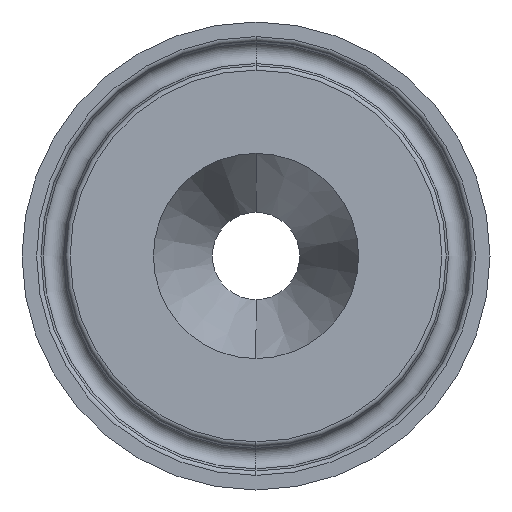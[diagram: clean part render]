
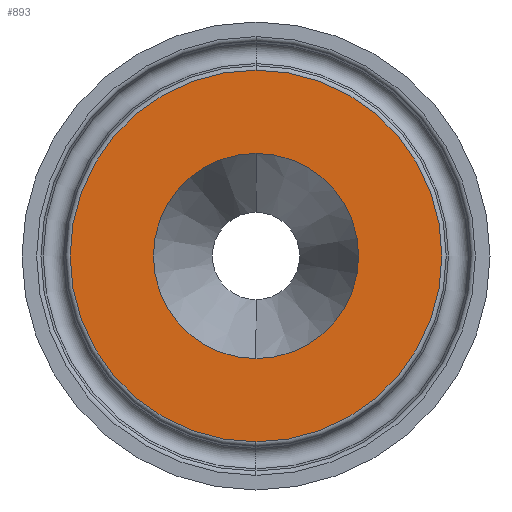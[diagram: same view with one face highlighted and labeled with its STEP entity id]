
A CAD part, left-side view. The second image highlights one B-rep face of the part: STEP entity #893.
In plain terms, the highlighted planar face has unit normal (-1, 0, 0).
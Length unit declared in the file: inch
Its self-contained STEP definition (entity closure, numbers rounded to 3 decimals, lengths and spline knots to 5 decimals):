
#36 = EDGE_CURVE ( 'NONE', #1296, #1189, #132, .T. ) ;
#69 = DIRECTION ( 'NONE',  ( 0., 0., 1. ) ) ;
#94 = DIRECTION ( 'NONE',  ( 0., 0., 1. ) ) ;
#102 = ORIENTED_EDGE ( 'NONE', *, *, #452, .T. ) ;
#110 = AXIS2_PLACEMENT_3D ( 'NONE', #946, #544, #1152 ) ;
#111 = PLANE ( 'NONE',  #654 ) ;
#132 = CIRCLE ( 'NONE', #482, 0.435 ) ;
#173 = AXIS2_PLACEMENT_3D ( 'NONE', #514, #919, #1135 ) ;
#185 = EDGE_LOOP ( 'NONE', ( #326, #102 ) ) ;
#192 = CARTESIAN_POINT ( 'NONE',  ( 0., 0.435, 0. ) ) ;
#203 = FACE_OUTER_BOUND ( 'NONE', #185, .T. ) ;
#272 = ORIENTED_EDGE ( 'NONE', *, *, #36, .F. ) ;
#279 = CARTESIAN_POINT ( 'NONE',  ( 0., 0., -0.435 ) ) ;
#326 = ORIENTED_EDGE ( 'NONE', *, *, #561, .T. ) ;
#343 = EDGE_CURVE ( 'NONE', #1189, #1296, #1183, .T. ) ;
#381 = CARTESIAN_POINT ( 'NONE',  ( 0., 0., 0. ) ) ;
#452 = EDGE_CURVE ( 'NONE', #605, #501, #989, .T. ) ;
#482 = AXIS2_PLACEMENT_3D ( 'NONE', #1018, #923, #94 ) ;
#501 = VERTEX_POINT ( 'NONE', #814 ) ;
#507 = EDGE_LOOP ( 'NONE', ( #272, #861 ) ) ;
#514 = CARTESIAN_POINT ( 'NONE',  ( 0., 0., 0. ) ) ;
#517 = DIRECTION ( 'NONE',  ( 1., 0., 0. ) ) ;
#523 = CIRCLE ( 'NONE', #110, 0.78791 ) ;
#544 = DIRECTION ( 'NONE',  ( -1., 0., 0. ) ) ;
#561 = EDGE_CURVE ( 'NONE', #501, #605, #523, .T. ) ;
#605 = VERTEX_POINT ( 'NONE', #1058 ) ;
#616 = FACE_BOUND ( 'NONE', #507, .T. ) ;
#654 = AXIS2_PLACEMENT_3D ( 'NONE', #192, #517, #1321 ) ;
#745 = CARTESIAN_POINT ( 'NONE',  ( 0., 0., 0.435 ) ) ;
#785 = DIRECTION ( 'NONE',  ( -1., 0., 0. ) ) ;
#814 = CARTESIAN_POINT ( 'NONE',  ( 0., 0., 0.78791 ) ) ;
#861 = ORIENTED_EDGE ( 'NONE', *, *, #343, .F. ) ;
#893 = ADVANCED_FACE ( 'NONE', ( #616, #203 ), #111, .F. ) ;
#915 = AXIS2_PLACEMENT_3D ( 'NONE', #381, #785, #69 ) ;
#919 = DIRECTION ( 'NONE',  ( -1., 0., 0. ) ) ;
#923 = DIRECTION ( 'NONE',  ( -1., 0., 0. ) ) ;
#946 = CARTESIAN_POINT ( 'NONE',  ( 0., 0., 0. ) ) ;
#989 = CIRCLE ( 'NONE', #173, 0.78791 ) ;
#1018 = CARTESIAN_POINT ( 'NONE',  ( 0., 0., 0. ) ) ;
#1058 = CARTESIAN_POINT ( 'NONE',  ( 0., 0., -0.78791 ) ) ;
#1135 = DIRECTION ( 'NONE',  ( 0., 0., 1. ) ) ;
#1152 = DIRECTION ( 'NONE',  ( 0., 0., 1. ) ) ;
#1183 = CIRCLE ( 'NONE', #915, 0.435 ) ;
#1189 = VERTEX_POINT ( 'NONE', #279 ) ;
#1296 = VERTEX_POINT ( 'NONE', #745 ) ;
#1321 = DIRECTION ( 'NONE',  ( 0., 0., -1. ) ) ;
